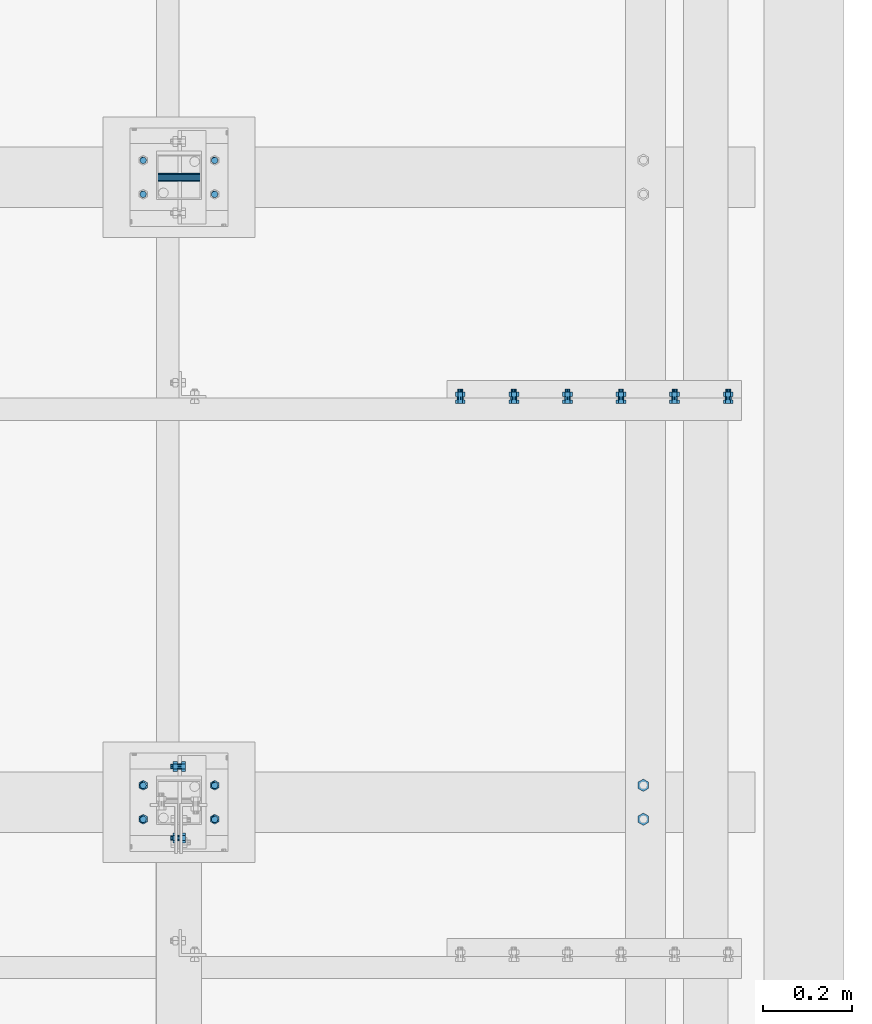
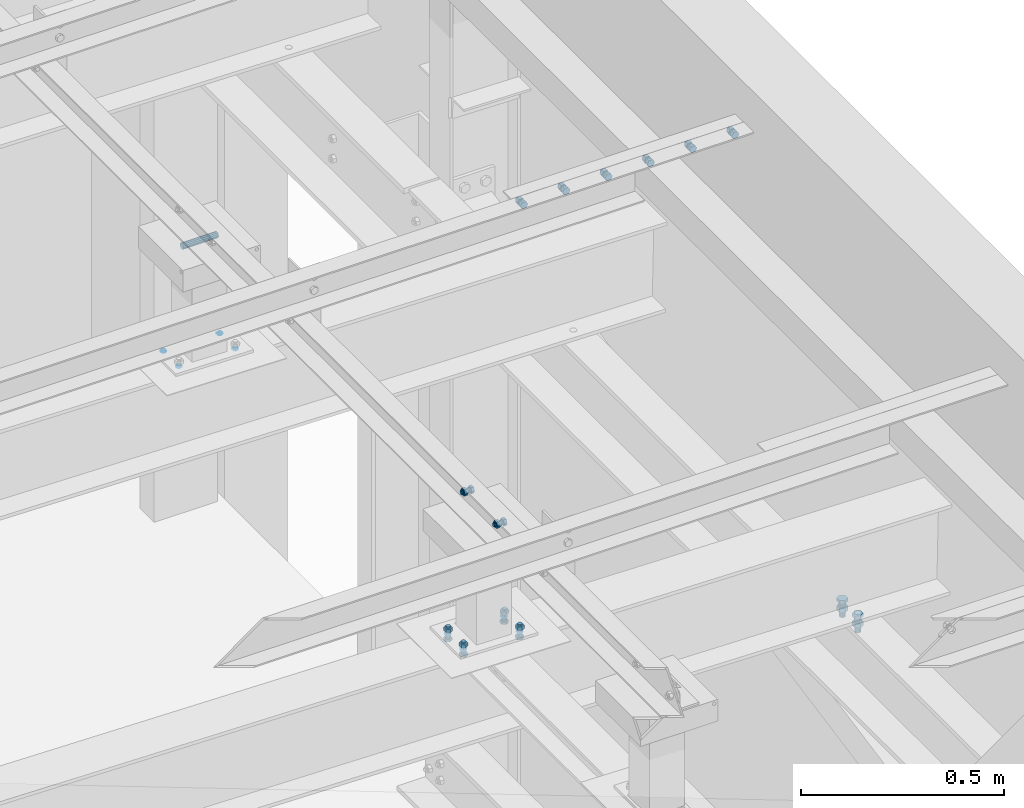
# One storey, part 400 of 3134: 7 mechanical fasteners, 7 elements without a shape of their own.
"""IFC2X3 building model written with IfcOpenShell, lengths in millimetres."""

from ifc_helpers import new_model, si_unit, frame, origin_with_axes, place, context, subcontext, project, spatial, faceted_brep, source, transform, mapped, material, type_object, element, aggregate, save


model = new_model("IFC2X3")

# Units and contexts
model_context = context("Model", 3, precision=1e-05, world=origin_with_axes())
body_context = subcontext(model_context, "Body", "Model", "MODEL_VIEW")
ifc_project = project(units=[si_unit("LENGTHUNIT", "METRE", prefix="MILLI"), si_unit("AREAUNIT", "SQUARE_METRE"), si_unit("VOLUMEUNIT", "CUBIC_METRE"), si_unit("MASSUNIT", "GRAM", prefix="KILO"), si_unit("TIMEUNIT", "SECOND"), si_unit("PLANEANGLEUNIT", "RADIAN"), si_unit("SOLIDANGLEUNIT", "STERADIAN"), si_unit("THERMODYNAMICTEMPERATUREUNIT", "DEGREE_CELSIUS"), si_unit("LUMINOUSINTENSITYUNIT", "LUMEN")], contexts=[model_context])

# Site, building, storey
site_placement = place(None, origin_with_axes())
site = spatial("IfcSite", under=ifc_project, at=site_placement, CompositionType="ELEMENT")
building_placement = place(site_placement, origin_with_axes())
building = spatial("IfcBuilding", under=site, at=building_placement, Name="Undefined", CompositionType="ELEMENT")
storey_placement = place(building_placement, origin_with_axes())
storey = spatial("IfcBuildingStorey", under=building, at=storey_placement, Name="Undefined", CompositionType="ELEMENT", Elevation=0.0)

# Assembly, mechanical fastener
assembly_1_placement = place(storey_placement, origin_with_axes())
assembly_1 = element("IfcElementAssembly", 1, at=assembly_1_placement, inside=storey, AssemblyPlace="NOTDEFINED", PredefinedType="RIGID_FRAME")
ifc_material = material(Name="8.8")
mechanical_fastener_type = type_object("IfcMechanicalFastenerType", Name="Bolt assembly")
shared_shape_1 = source(origin_with_axes(), body_context, "Body", "Brep", [
    faceted_brep([(10.9696551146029, -14.0, 0.0), (5.48482755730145, -14.0, 9.5), (-5.48482755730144, -14.0, 9.5), (-10.9696551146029, -14.0, 1.34339530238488e-15), (-5.48482755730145, -14.0, -9.5), (5.48482755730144, -14.0, -9.50000000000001), (5.48482755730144, -6.0, -9.50000000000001), (-5.48482755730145, -6.0, -9.5), (-10.9696551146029, -6.0, 1.34339530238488e-15), (-5.48482755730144, -6.0, 9.5), (5.48482755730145, -6.0, 9.5), (10.9696551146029, -6.0, 0.0), (6.0, -6.0, 0.0), (5.19615242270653, -6.0, 3.00000000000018), (2.99999999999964, -6.0, 5.19615242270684), (-6.21801588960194e-13, -6.0, 6.0), (-3.00000000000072, -6.0, 5.19615242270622), (-5.19615242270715, -6.0, 2.9999999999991), (-6.0, -6.0, -1.24360317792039e-12), (-5.19615242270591, -6.0, -3.00000000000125), (-2.99999999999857, -6.0, -5.19615242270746), (1.85874342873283e-12, -6.0, -6.0), (3.00000000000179, -6.0, -5.1961524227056), (5.19615242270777, -6.0, -2.99999999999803), (5.19615242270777, 19.0, -2.99999999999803), (3.00000000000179, 19.0, -5.1961524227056), (1.85874342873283e-12, 19.0, -6.0), (-2.99999999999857, 19.0, -5.19615242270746), (-5.19615242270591, 19.0, -3.00000000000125), (-6.0, 19.0, -1.24360317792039e-12), (-5.19615242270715, 19.0, 2.9999999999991), (-3.00000000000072, 19.0, 5.19615242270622), (-6.21801588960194e-13, 19.0, 6.0), (2.99999999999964, 19.0, 5.19615242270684), (5.19615242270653, 19.0, 3.00000000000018), (6.0, 19.0, 0.0), (10.9696551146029, 4.00000000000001, 0.0), (5.48482755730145, 4.00000000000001, 9.5), (-5.48482755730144, 4.00000000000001, 9.5), (-10.9696551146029, 4.00000000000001, 1.34339530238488e-15), (-5.48482755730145, 4.00000000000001, -9.5), (5.48482755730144, 4.00000000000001, -9.50000000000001), (5.48482755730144, 14.0, -9.50000000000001), (-5.48482755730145, 14.0, -9.5), (-10.9696551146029, 14.0, 1.34339530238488e-15), (-5.48482755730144, 14.0, 9.5), (5.48482755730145, 14.0, 9.5), (10.9696551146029, 14.0, 0.0)], [[[0, 1, 2, 3, 4, 5]], [[6, 7, 8, 9, 10, 11]], [[0, 11, 10, 1]], [[1, 10, 9, 2]], [[2, 9, 8, 3]], [[3, 8, 7, 4]], [[4, 7, 6, 5]], [[5, 6, 11, 0]], [[12, 13, 14, 15, 16, 17, 18, 19, 20, 21, 22, 23]], [[24, 25, 26, 27, 28, 29, 30, 31, 32, 33, 34, 35]], [[12, 35, 34, 13]], [[13, 34, 33, 14]], [[14, 33, 32, 15]], [[15, 32, 31, 16]], [[16, 31, 30, 17]], [[17, 30, 29, 18]], [[18, 29, 28, 19]], [[19, 28, 27, 20]], [[20, 27, 26, 21]], [[21, 26, 25, 22]], [[22, 25, 24, 23]], [[23, 24, 35, 12]], [[36, 37, 38, 39, 40, 41]], [[42, 43, 44, 45, 46, 47]], [[36, 47, 46, 37]], [[37, 46, 45, 38]], [[38, 45, 44, 39]], [[39, 44, 43, 40]], [[40, 43, 42, 41]], [[41, 42, 47, 36]]]),
    faceted_brep([(7.0, -0.1, 0.0), (6.06217782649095, -0.1, 3.50000000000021), (3.49999999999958, -0.1, 6.06217782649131), (-7.25435187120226e-13, -0.1, 7.0), (-3.50000000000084, -0.1, 6.06217782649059), (-6.06217782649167, -0.1, 3.49999999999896), (-7.0, -0.1, -1.45087037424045e-12), (-6.06217782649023, -0.1, -3.50000000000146), (-3.49999999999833, -0.1, -6.06217782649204), (2.1685340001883e-12, -0.1, -7.0), (3.50000000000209, -0.1, -6.06217782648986), (6.0621778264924, -0.1, -3.4999999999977), (6.0621778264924, 4.00000000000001, -3.4999999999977), (3.50000000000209, 4.00000000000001, -6.06217782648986), (2.1685340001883e-12, 4.00000000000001, -7.0), (-3.49999999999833, 4.00000000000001, -6.06217782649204), (-6.06217782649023, 4.00000000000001, -3.50000000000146), (-7.0, 4.00000000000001, -1.45087037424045e-12), (-6.06217782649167, 4.00000000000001, 3.49999999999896), (-3.50000000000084, 4.00000000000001, 6.06217782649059), (-7.25435187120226e-13, 4.00000000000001, 7.0), (3.49999999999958, 4.00000000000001, 6.06217782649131), (6.06217782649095, 4.00000000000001, 3.50000000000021), (7.0, 4.00000000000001, 0.0), (7.0, -5.9, 0.0), (6.06217782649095, -5.9, 3.50000000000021), (3.49999999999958, -5.9, 6.06217782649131), (-7.25435187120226e-13, -5.9, 7.0), (-3.50000000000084, -5.9, 6.06217782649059), (-6.06217782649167, -5.9, 3.49999999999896), (-7.0, -5.9, -1.45087037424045e-12), (-6.06217782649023, -5.9, -3.50000000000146), (-3.49999999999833, -5.9, -6.06217782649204), (2.1685340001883e-12, -5.9, -7.0), (3.50000000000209, -5.9, -6.06217782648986), (6.0621778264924, -5.9, -3.4999999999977), (6.0621778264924, 0.0999999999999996, -3.4999999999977), (3.50000000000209, 0.0999999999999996, -6.06217782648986), (2.1685340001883e-12, 0.0999999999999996, -7.0), (-3.49999999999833, 0.0999999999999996, -6.06217782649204), (-6.06217782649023, 0.0999999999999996, -3.50000000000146), (-7.0, 0.0999999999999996, -1.45087037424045e-12), (-6.06217782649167, 0.0999999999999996, 3.49999999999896), (-3.50000000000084, 0.0999999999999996, 6.06217782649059), (-7.25435187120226e-13, 0.0999999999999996, 7.0), (3.49999999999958, 0.0999999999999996, 6.06217782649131), (6.06217782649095, 0.0999999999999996, 3.50000000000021), (7.0, 0.0999999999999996, 0.0)], [[[0, 1, 2, 3, 4, 5, 6, 7, 8, 9, 10, 11]], [[12, 13, 14, 15, 16, 17, 18, 19, 20, 21, 22, 23]], [[0, 23, 22, 1]], [[1, 22, 21, 2]], [[2, 21, 20, 3]], [[3, 20, 19, 4]], [[4, 19, 18, 5]], [[5, 18, 17, 6]], [[6, 17, 16, 7]], [[7, 16, 15, 8]], [[8, 15, 14, 9]], [[9, 14, 13, 10]], [[10, 13, 12, 11]], [[11, 12, 23, 0]], [[24, 25, 26, 27, 28, 29, 30, 31, 32, 33, 34, 35]], [[36, 37, 38, 39, 40, 41, 42, 43, 44, 45, 46, 47]], [[24, 47, 46, 25]], [[25, 46, 45, 26]], [[26, 45, 44, 27]], [[27, 44, 43, 28]], [[28, 43, 42, 29]], [[29, 42, 41, 30]], [[30, 41, 40, 31]], [[31, 40, 39, 32]], [[32, 39, 38, 33]], [[33, 38, 37, 34]], [[34, 37, 36, 35]], [[35, 36, 47, 24]]]),
])
mechanical_fastener_1_placement = place(assembly_1_placement, frame((78045.0, 27665.0, 5785.0), z_axis=(0.0, 0.0, 1.0), x_axis=(0.0, 1.0, 0.0)))
mechanical_fastener_1 = element("IfcMechanicalFastener", 2, at=mechanical_fastener_1_placement, type_object=mechanical_fastener_type, material=ifc_material, Name="Bolt assembly", NominalDiameter=12.0, NominalLength=25.0, context=body_context, shape_type="MappedRepresentation", body=[
    mapped(shared_shape_1, transform((0.0, 0.0, 0.0))),
    mapped(shared_shape_1, transform((160.0, 0.0, 0.0))),
])
aggregate(assembly_1, [mechanical_fastener_1])

assembly_2_placement = place(storey_placement, origin_with_axes())
assembly_2 = element("IfcElementAssembly", 3, at=assembly_2_placement, inside=storey, AssemblyPlace="NOTDEFINED", PredefinedType="RIGID_FRAME")
shared_shape_2 = source(origin_with_axes(), body_context, "Body", "Brep", [
    faceted_brep([(7.0, 13.0000253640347, 0.0), (6.06217782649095, 13.0000253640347, 3.50000000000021), (3.49999999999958, 13.0000253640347, 6.06217782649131), (-7.25435187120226e-13, 13.0000253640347, 7.0), (-3.50000000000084, 13.0000253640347, 6.06217782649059), (-6.06217782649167, 13.0000253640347, 3.49999999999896), (-7.0, 13.0000253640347, -1.45087037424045e-12), (-6.06217782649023, 13.0000253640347, -3.50000000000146), (-3.49999999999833, 13.0000253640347, -6.06217782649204), (2.1685340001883e-12, 13.0000253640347, -7.0), (3.50000000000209, 13.0000253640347, -6.06217782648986), (6.0621778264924, 13.0000253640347, -3.4999999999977), (6.0621778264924, 15.0999999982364, -3.4999999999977), (3.50000000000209, 15.0999999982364, -6.06217782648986), (2.1685340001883e-12, 15.0999999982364, -7.0), (-3.49999999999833, 15.0999999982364, -6.06217782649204), (-6.06217782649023, 15.0999999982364, -3.50000000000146), (-7.0, 15.0999999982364, -1.45087037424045e-12), (-6.06217782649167, 15.0999999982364, 3.49999999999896), (-3.50000000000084, 15.0999999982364, 6.06217782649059), (-7.25435187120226e-13, 15.0999999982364, 7.0), (3.49999999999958, 15.0999999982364, 6.06217782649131), (6.06217782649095, 15.0999999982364, 3.50000000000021), (7.0, 15.0999999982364, 0.0)], [[[0, 1, 2, 3, 4, 5, 6, 7, 8, 9, 10, 11]], [[12, 13, 14, 15, 16, 17, 18, 19, 20, 21, 22, 23]], [[0, 23, 22, 1]], [[1, 22, 21, 2]], [[2, 21, 20, 3]], [[3, 20, 19, 4]], [[4, 19, 18, 5]], [[5, 18, 17, 6]], [[6, 17, 16, 7]], [[7, 16, 15, 8]], [[8, 15, 14, 9]], [[9, 14, 13, 10]], [[10, 13, 12, 11]], [[11, 12, 23, 0]]]),
])
mechanical_fastener_2_placement = place(assembly_2_placement, frame((78044.5380906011, 27783.0, 5393.24064104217), z_axis=(-0.999799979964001, 0.0, 0.0200000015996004), x_axis=(0.0, -1.0, 0.0)))
mechanical_fastener_2 = element("IfcMechanicalFastener", 4, at=mechanical_fastener_2_placement, type_object=mechanical_fastener_type, material=ifc_material, Name="Bolt assembly", NominalDiameter=12.0, NominalLength=2.0, context=body_context, shape_type="MappedRepresentation", body=[
    mapped(shared_shape_2, transform((0.0, -5.32963895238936e-10, -79.9999999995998))),
    mapped(shared_shape_2, transform((76.0, -5.32963895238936e-10, -79.9999999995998))),
    mapped(shared_shape_2, transform((0.0, 5.3114490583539e-10, 79.9999999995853))),
    mapped(shared_shape_2, transform((76.0, 5.3114490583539e-10, 79.9999999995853))),
])
aggregate(assembly_2, [mechanical_fastener_2])

assembly_3_placement = place(storey_placement, origin_with_axes())
assembly_3 = element("IfcElementAssembly", 5, at=assembly_3_placement, inside=storey, AssemblyPlace="NOTDEFINED", PredefinedType="RIGID_FRAME")
mechanical_fastener_3_placement = place(assembly_3_placement, frame((78044.5380906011, 29183.0, 5393.24064104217), z_axis=(-0.999799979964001, 0.0, 0.0200000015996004), x_axis=(0.0, -1.0, 0.0)))
mechanical_fastener_3 = element("IfcMechanicalFastener", 6, at=mechanical_fastener_3_placement, type_object=mechanical_fastener_type, material=ifc_material, Name="Bolt assembly", NominalDiameter=12.0, NominalLength=2.0, context=body_context, shape_type="MappedRepresentation", body=[
    mapped(shared_shape_2, transform((0.0, -5.32963895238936e-10, -79.9999999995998))),
    mapped(shared_shape_2, transform((76.0, -5.32963895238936e-10, -79.9999999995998))),
    mapped(shared_shape_2, transform((0.0, 5.3114490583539e-10, 79.9999999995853))),
    mapped(shared_shape_2, transform((76.0, 5.3114490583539e-10, 79.9999999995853))),
])
aggregate(assembly_3, [mechanical_fastener_3])

assembly_4_placement = place(storey_placement, origin_with_axes())
assembly_4 = element("IfcElementAssembly", 7, at=assembly_4_placement, inside=storey, AssemblyPlace="NOTDEFINED", PredefinedType="RIGID_FRAME")
shared_shape_3 = source(origin_with_axes(), body_context, "Body", "Brep", [
    faceted_brep([(9.0, -50.0, 0.0), (7.79422863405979, -50.0, 4.50000000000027), (4.49999999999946, -50.0, 7.79422863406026), (-9.3270238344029e-13, -50.0, 9.0), (-4.50000000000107, -50.0, 7.79422863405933), (-7.79422863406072, -50.0, 4.49999999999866), (-9.0, -50.0, -1.86540476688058e-12), (-7.79422863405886, -50.0, -4.50000000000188), (-4.49999999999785, -50.0, -7.79422863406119), (2.78811514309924e-12, -50.0, -9.0), (4.50000000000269, -50.0, -7.7942286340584), (7.79422863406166, -50.0, -4.49999999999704), (7.79422863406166, 50.1, -4.49999999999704), (4.50000000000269, 50.1, -7.7942286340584), (2.78811514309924e-12, 50.1, -9.0), (-4.49999999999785, 50.1, -7.79422863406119), (-7.79422863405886, 50.1, -4.50000000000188), (-9.0, 50.1, -1.86540476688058e-12), (-7.79422863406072, 50.1, 4.49999999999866), (-4.50000000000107, 50.1, 7.79422863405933), (-9.3270238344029e-13, 50.1, 9.0), (4.49999999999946, 50.1, 7.79422863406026), (7.79422863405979, 50.1, 4.50000000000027), (9.0, 50.1, 0.0)], [[[0, 1, 2, 3, 4, 5, 6, 7, 8, 9, 10, 11]], [[12, 13, 14, 15, 16, 17, 18, 19, 20, 21, 22, 23]], [[0, 23, 22, 1]], [[1, 22, 21, 2]], [[2, 21, 20, 3]], [[3, 20, 19, 4]], [[4, 19, 18, 5]], [[5, 18, 17, 6]], [[6, 17, 16, 7]], [[7, 16, 15, 8]], [[8, 15, 14, 9]], [[9, 14, 13, 10]], [[10, 13, 12, 11]], [[11, 12, 23, 0]]]),
])
mechanical_fastener_4_placement = place(assembly_4_placement, frame((78045.0, 29145.0, 5736.0), z_axis=(0.0, 1.0, 0.0), x_axis=(0.0, 0.0, 1.0)))
mechanical_fastener_4 = element("IfcMechanicalFastener", 8, at=mechanical_fastener_4_placement, type_object=mechanical_fastener_type, material=ifc_material, Name="Bolt assembly", NominalDiameter=16.0, NominalLength=100.0, context=body_context, shape_type="MappedRepresentation", body=[
    mapped(shared_shape_3, transform((0.0, 0.0, 0.0))),
])
aggregate(assembly_4, [mechanical_fastener_4])

assembly_5_placement = place(storey_placement, origin_with_axes())
assembly_5 = element("IfcElementAssembly", 9, at=assembly_5_placement, inside=storey, Name="UPN260", AssemblyPlace="NOTDEFINED", PredefinedType="RIGID_FRAME")
shared_shape_4 = source(origin_with_axes(), body_context, "Body", "Brep", [
    faceted_brep([(13.856406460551, -10.0, 0.0), (6.92820323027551, -10.0, 12.0), (-6.92820323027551, -10.0, 12.0), (-13.856406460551, -10.0, 1.69692038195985e-15), (-6.92820323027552, -10.0, -12.0), (6.9282032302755, -10.0, -12.0), (6.9282032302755, 0.0, -12.0), (-6.92820323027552, 0.0, -12.0), (-13.856406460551, 0.0, 1.69692038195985e-15), (-6.92820323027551, 0.0, 12.0), (6.92820323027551, 0.0, 12.0), (13.856406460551, 0.0, 0.0), (8.0, 0.0, 0.0), (6.92820323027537, 0.0, 4.00000000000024), (3.99999999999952, 0.0, 6.92820323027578), (-8.29068785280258e-13, 0.0, 8.0), (-4.00000000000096, 0.0, 6.92820323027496), (-6.9282032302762, 0.0, 3.99999999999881), (-8.0, 0.0, -1.65813757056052e-12), (-6.92820323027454, 0.0, -4.00000000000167), (-3.99999999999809, 0.0, -6.92820323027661), (2.47832457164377e-12, 0.0, -8.0), (4.00000000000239, 0.0, -6.92820323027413), (6.92820323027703, 0.0, -3.99999999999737), (6.92820323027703, 45.0, -3.99999999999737), (4.00000000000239, 45.0, -6.92820323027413), (2.47832457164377e-12, 45.0, -8.0), (-3.99999999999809, 45.0, -6.92820323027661), (-6.92820323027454, 45.0, -4.00000000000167), (-8.0, 45.0, -1.65813757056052e-12), (-6.9282032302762, 45.0, 3.99999999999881), (-4.00000000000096, 45.0, 6.92820323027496), (-8.29068785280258e-13, 45.0, 8.0), (3.99999999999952, 45.0, 6.92820323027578), (6.92820323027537, 45.0, 4.00000000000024), (8.0, 45.0, 0.0), (13.856406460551, 13.9999999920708, 0.0), (6.92820323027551, 13.9999999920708, 12.0), (-6.92820323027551, 13.9999999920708, 12.0), (-13.856406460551, 13.9999999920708, 1.69692038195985e-15), (-6.92820323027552, 13.9999999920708, -12.0), (6.9282032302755, 13.9999999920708, -12.0), (6.9282032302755, 27.0, -12.0), (-6.92820323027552, 27.0, -12.0), (-13.856406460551, 27.0, 1.69692038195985e-15), (-6.92820323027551, 27.0, 12.0), (6.92820323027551, 27.0, 12.0), (13.856406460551, 27.0, 0.0)], [[[0, 1, 2, 3, 4, 5]], [[6, 7, 8, 9, 10, 11]], [[0, 11, 10, 1]], [[1, 10, 9, 2]], [[2, 9, 8, 3]], [[3, 8, 7, 4]], [[4, 7, 6, 5]], [[5, 6, 11, 0]], [[12, 13, 14, 15, 16, 17, 18, 19, 20, 21, 22, 23]], [[24, 25, 26, 27, 28, 29, 30, 31, 32, 33, 34, 35]], [[12, 35, 34, 13]], [[13, 34, 33, 14]], [[14, 33, 32, 15]], [[15, 32, 31, 16]], [[16, 31, 30, 17]], [[17, 30, 29, 18]], [[18, 29, 28, 19]], [[19, 28, 27, 20]], [[20, 27, 26, 21]], [[21, 26, 25, 22]], [[22, 25, 24, 23]], [[23, 24, 35, 12]], [[36, 37, 38, 39, 40, 41]], [[42, 43, 44, 45, 46, 47]], [[36, 47, 46, 37]], [[37, 46, 45, 38]], [[38, 45, 44, 39]], [[39, 44, 43, 40]], [[40, 43, 42, 41]], [[41, 42, 47, 36]]]),
    faceted_brep([(9.0, -3.46568413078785e-07, 0.0), (7.79422863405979, -3.46568413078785e-07, 4.50000000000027), (4.49999999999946, -3.46568413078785e-07, 7.79422863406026), (-9.3270238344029e-13, -3.46568413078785e-07, 9.0), (-4.50000000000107, -3.46568413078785e-07, 7.79422863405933), (-7.79422863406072, -3.46568413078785e-07, 4.49999999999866), (-9.0, -3.46568413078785e-07, -1.86540476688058e-12), (-7.79422863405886, -3.46568413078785e-07, -4.50000000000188), (-4.49999999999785, -3.46568413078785e-07, -7.79422863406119), (2.78811514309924e-12, -3.46568413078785e-07, -9.0), (4.50000000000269, -3.46568413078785e-07, -7.7942286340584), (7.79422863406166, -3.46568413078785e-07, -4.49999999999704), (7.79422863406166, 14.1000000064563, -4.49999999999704), (4.50000000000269, 14.1000000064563, -7.7942286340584), (2.78811514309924e-12, 14.1000000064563, -9.0), (-4.49999999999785, 14.1000000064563, -7.79422863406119), (-7.79422863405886, 14.1000000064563, -4.50000000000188), (-9.0, 14.1000000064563, -1.86540476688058e-12), (-7.79422863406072, 14.1000000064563, 4.49999999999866), (-4.50000000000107, 14.1000000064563, 7.79422863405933), (-9.3270238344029e-13, 14.1000000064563, 9.0), (4.49999999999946, 14.1000000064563, 7.79422863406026), (7.79422863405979, 14.1000000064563, 4.50000000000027), (9.0, 14.1000000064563, 0.0)], [[[0, 1, 2, 3, 4, 5, 6, 7, 8, 9, 10, 11]], [[12, 13, 14, 15, 16, 17, 18, 19, 20, 21, 22, 23]], [[0, 23, 22, 1]], [[1, 22, 21, 2]], [[2, 21, 20, 3]], [[3, 20, 19, 4]], [[4, 19, 18, 5]], [[5, 18, 17, 6]], [[6, 17, 16, 7]], [[7, 16, 15, 8]], [[8, 15, 14, 9]], [[9, 14, 13, 10]], [[10, 13, 12, 11]], [[11, 12, 23, 0]]]),
])
mechanical_fastener_5_placement = place(assembly_5_placement, frame((79085.0, 27707.0, 5114.384809), z_axis=(-1.0, 0.0, 0.0), x_axis=(0.0, 1.0, 0.0)))
mechanical_fastener_5 = element("IfcMechanicalFastener", 10, at=mechanical_fastener_5_placement, type_object=mechanical_fastener_type, material=ifc_material, Name="Bolt assembly", NominalDiameter=16.0, NominalLength=45.0, context=body_context, shape_type="MappedRepresentation", body=[
    mapped(shared_shape_4, transform((0.0, 0.0, 0.0))),
    mapped(shared_shape_4, transform((76.0, 0.0, 0.0))),
])
aggregate(assembly_5, [mechanical_fastener_5])

assembly_6_placement = place(storey_placement, origin_with_axes())
assembly_6 = element("IfcElementAssembly", 11, at=assembly_6_placement, inside=storey, AssemblyPlace="NOTDEFINED", PredefinedType="RIGID_FRAME")
shared_shape_5 = source(origin_with_axes(), body_context, "Body", "Brep", [
    faceted_brep([(10.9696551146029, -12.0, 0.0), (5.48482755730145, -12.0, 9.5), (-5.48482755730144, -12.0, 9.5), (-10.9696551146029, -12.0, 1.34339530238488e-15), (-5.48482755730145, -12.0, -9.5), (5.48482755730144, -12.0, -9.50000000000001), (5.48482755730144, -4.0, -9.50000000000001), (-5.48482755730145, -4.0, -9.5), (-10.9696551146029, -4.0, 1.34339530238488e-15), (-5.48482755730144, -4.0, 9.5), (5.48482755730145, -4.0, 9.5), (10.9696551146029, -4.0, 0.0), (6.0, -4.0, 0.0), (5.19615242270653, -4.0, 3.00000000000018), (2.99999999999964, -4.0, 5.19615242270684), (-6.21801588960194e-13, -4.0, 6.0), (-3.00000000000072, -4.0, 5.19615242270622), (-5.19615242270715, -4.0, 2.9999999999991), (-6.0, -4.0, -1.24360317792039e-12), (-5.19615242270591, -4.0, -3.00000000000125), (-2.99999999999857, -4.0, -5.19615242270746), (1.85874342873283e-12, -4.0, -6.0), (3.00000000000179, -4.0, -5.1961524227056), (5.19615242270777, -4.0, -2.99999999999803), (5.19615242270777, 21.0, -2.99999999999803), (3.00000000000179, 21.0, -5.1961524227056), (1.85874342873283e-12, 21.0, -6.0), (-2.99999999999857, 21.0, -5.19615242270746), (-5.19615242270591, 21.0, -3.00000000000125), (-6.0, 21.0, -1.24360317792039e-12), (-5.19615242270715, 21.0, 2.9999999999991), (-3.00000000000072, 21.0, 5.19615242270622), (-6.21801588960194e-13, 21.0, 6.0), (2.99999999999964, 21.0, 5.19615242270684), (5.19615242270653, 21.0, 3.00000000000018), (6.0, 21.0, 0.0), (10.9696551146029, 4.00000000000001, 0.0), (5.48482755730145, 4.00000000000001, 9.5), (-5.48482755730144, 4.00000000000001, 9.5), (-10.9696551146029, 4.00000000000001, 1.34339530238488e-15), (-5.48482755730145, 4.00000000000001, -9.5), (5.48482755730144, 4.00000000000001, -9.50000000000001), (5.48482755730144, 14.0, -9.50000000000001), (-5.48482755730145, 14.0, -9.5), (-10.9696551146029, 14.0, 1.34339530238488e-15), (-5.48482755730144, 14.0, 9.5), (5.48482755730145, 14.0, 9.5), (10.9696551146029, 14.0, 0.0)], [[[0, 1, 2, 3, 4, 5]], [[6, 7, 8, 9, 10, 11]], [[0, 11, 10, 1]], [[1, 10, 9, 2]], [[2, 9, 8, 3]], [[3, 8, 7, 4]], [[4, 7, 6, 5]], [[5, 6, 11, 0]], [[12, 13, 14, 15, 16, 17, 18, 19, 20, 21, 22, 23]], [[24, 25, 26, 27, 28, 29, 30, 31, 32, 33, 34, 35]], [[12, 35, 34, 13]], [[13, 34, 33, 14]], [[14, 33, 32, 15]], [[15, 32, 31, 16]], [[16, 31, 30, 17]], [[17, 30, 29, 18]], [[18, 29, 28, 19]], [[19, 28, 27, 20]], [[20, 27, 26, 21]], [[21, 26, 25, 22]], [[22, 25, 24, 23]], [[23, 24, 35, 12]], [[36, 37, 38, 39, 40, 41]], [[42, 43, 44, 45, 46, 47]], [[36, 47, 46, 37]], [[37, 46, 45, 38]], [[38, 45, 44, 39]], [[39, 44, 43, 40]], [[40, 43, 42, 41]], [[41, 42, 47, 36]]]),
    faceted_brep([(7.0, -3.9, 0.0), (6.06217782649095, -3.9, 3.50000000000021), (3.49999999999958, -3.9, 6.06217782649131), (-7.25435187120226e-13, -3.9, 7.0), (-3.50000000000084, -3.9, 6.06217782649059), (-6.06217782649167, -3.9, 3.49999999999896), (-7.0, -3.9, -1.45087037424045e-12), (-6.06217782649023, -3.9, -3.50000000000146), (-3.49999999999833, -3.9, -6.06217782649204), (2.1685340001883e-12, -3.9, -7.0), (3.50000000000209, -3.9, -6.06217782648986), (6.0621778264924, -3.9, -3.4999999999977), (6.0621778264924, 0.0999999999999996, -3.4999999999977), (3.50000000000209, 0.0999999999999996, -6.06217782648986), (2.1685340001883e-12, 0.0999999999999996, -7.0), (-3.49999999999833, 0.0999999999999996, -6.06217782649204), (-6.06217782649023, 0.0999999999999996, -3.50000000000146), (-7.0, 0.0999999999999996, -1.45087037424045e-12), (-6.06217782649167, 0.0999999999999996, 3.49999999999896), (-3.50000000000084, 0.0999999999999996, 6.06217782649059), (-7.25435187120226e-13, 0.0999999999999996, 7.0), (3.49999999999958, 0.0999999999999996, 6.06217782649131), (6.06217782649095, 0.0999999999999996, 3.50000000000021), (7.0, 0.0999999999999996, 0.0), (7.0, -0.1, 0.0), (6.06217782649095, -0.1, 3.50000000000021), (3.49999999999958, -0.1, 6.06217782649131), (-7.25435187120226e-13, -0.1, 7.0), (-3.50000000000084, -0.1, 6.06217782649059), (-6.06217782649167, -0.1, 3.49999999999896), (-7.0, -0.1, -1.45087037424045e-12), (-6.06217782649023, -0.1, -3.50000000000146), (-3.49999999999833, -0.1, -6.06217782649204), (2.1685340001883e-12, -0.1, -7.0), (3.50000000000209, -0.1, -6.06217782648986), (6.0621778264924, -0.1, -3.4999999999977), (6.0621778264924, 4.00000000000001, -3.4999999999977), (3.50000000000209, 4.00000000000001, -6.06217782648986), (2.1685340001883e-12, 4.00000000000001, -7.0), (-3.49999999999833, 4.00000000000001, -6.06217782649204), (-6.06217782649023, 4.00000000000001, -3.50000000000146), (-7.0, 4.00000000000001, -1.45087037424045e-12), (-6.06217782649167, 4.00000000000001, 3.49999999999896), (-3.50000000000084, 4.00000000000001, 6.06217782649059), (-7.25435187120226e-13, 4.00000000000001, 7.0), (3.49999999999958, 4.00000000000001, 6.06217782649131), (6.06217782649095, 4.00000000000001, 3.50000000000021), (7.0, 4.00000000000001, 0.0)], [[[0, 1, 2, 3, 4, 5, 6, 7, 8, 9, 10, 11]], [[12, 13, 14, 15, 16, 17, 18, 19, 20, 21, 22, 23]], [[0, 23, 22, 1]], [[1, 22, 21, 2]], [[2, 21, 20, 3]], [[3, 20, 19, 4]], [[4, 19, 18, 5]], [[5, 18, 17, 6]], [[6, 17, 16, 7]], [[7, 16, 15, 8]], [[8, 15, 14, 9]], [[9, 14, 13, 10]], [[10, 13, 12, 11]], [[11, 12, 23, 0]], [[24, 25, 26, 27, 28, 29, 30, 31, 32, 33, 34, 35]], [[36, 37, 38, 39, 40, 41, 42, 43, 44, 45, 46, 47]], [[24, 47, 46, 25]], [[25, 46, 45, 26]], [[26, 45, 44, 27]], [[27, 44, 43, 28]], [[28, 43, 42, 29]], [[29, 42, 41, 30]], [[30, 41, 40, 31]], [[31, 40, 39, 32]], [[32, 39, 38, 33]], [[33, 38, 37, 34]], [[34, 37, 36, 35]], [[35, 36, 47, 24]]]),
])
mechanical_fastener_6_placement = place(assembly_6_placement, frame((78675.0, 28650.0, 5928.0), z_axis=(0.0, 0.0, 1.0), x_axis=(1.0, 0.0, 0.0)))
mechanical_fastener_6 = element("IfcMechanicalFastener", 12, at=mechanical_fastener_6_placement, type_object=mechanical_fastener_type, material=ifc_material, Name="Bolt assembly", NominalDiameter=12.0, NominalLength=25.0, context=body_context, shape_type="MappedRepresentation", body=[
    mapped(shared_shape_5, transform((0.0, 0.0, 0.0))),
    mapped(shared_shape_5, transform((120.0, 0.0, 0.0))),
    mapped(shared_shape_5, transform((240.0, 0.0, 0.0))),
    mapped(shared_shape_5, transform((360.0, 0.0, 0.0))),
    mapped(shared_shape_5, transform((480.0, 0.0, 0.0))),
    mapped(shared_shape_5, transform((600.0, 0.0, 0.0))),
])
aggregate(assembly_6, [mechanical_fastener_6])

assembly_7_placement = place(storey_placement, origin_with_axes())
assembly_7 = element("IfcElementAssembly", 13, at=assembly_7_placement, inside=storey, Name="IPE270", AssemblyPlace="NOTDEFINED", PredefinedType="RIGID_FRAME")
shared_shape_6 = source(origin_with_axes(), body_context, "Body", "Brep", [
    faceted_brep([(10.9696551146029, -5.19448874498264, 0.0), (5.48482755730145, -5.19448874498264, 9.5), (-5.48482755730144, -5.19448874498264, 9.5), (-10.9696551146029, -5.19448874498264, 1.34339530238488e-15), (-5.48482755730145, -5.19448874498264, -9.5), (5.48482755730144, -5.19448874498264, -9.50000000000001), (5.48482755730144, 2.80551125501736, -9.50000000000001), (-5.48482755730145, 2.80551125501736, -9.5), (-10.9696551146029, 2.80551125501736, 1.34339530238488e-15), (-5.48482755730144, 2.80551125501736, 9.5), (5.48482755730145, 2.80551125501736, 9.5), (10.9696551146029, 2.80551125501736, 0.0), (6.0, 2.80551125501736, 0.0), (5.19615242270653, 2.80551125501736, 3.00000000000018), (2.99999999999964, 2.80551125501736, 5.19615242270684), (-6.21801588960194e-13, 2.80551125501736, 6.0), (-3.00000000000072, 2.80551125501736, 5.19615242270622), (-5.19615242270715, 2.80551125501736, 2.9999999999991), (-6.0, 2.80551125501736, -1.24360317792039e-12), (-5.19615242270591, 2.80551125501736, -3.00000000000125), (-2.99999999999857, 2.80551125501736, -5.19615242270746), (1.85874342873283e-12, 2.80551125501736, -6.0), (3.00000000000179, 2.80551125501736, -5.1961524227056), (5.19615242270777, 2.80551125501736, -2.99999999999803), (5.19615242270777, 37.8055112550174, -2.99999999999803), (3.00000000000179, 37.8055112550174, -5.1961524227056), (1.85874342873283e-12, 37.8055112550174, -6.0), (-2.99999999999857, 37.8055112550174, -5.19615242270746), (-5.19615242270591, 37.8055112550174, -3.00000000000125), (-6.0, 37.8055112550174, -1.24360317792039e-12), (-5.19615242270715, 37.8055112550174, 2.9999999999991), (-3.00000000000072, 37.8055112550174, 5.19615242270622), (-6.21801588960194e-13, 37.8055112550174, 6.0), (2.99999999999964, 37.8055112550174, 5.19615242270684), (5.19615242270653, 37.8055112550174, 3.00000000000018), (6.0, 37.8055112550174, 0.0), (10.9696551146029, 23.0139082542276, 0.0), (5.48482755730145, 23.0139082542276, 9.5), (-5.48482755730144, 23.0139082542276, 9.5), (-10.9696551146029, 23.0139082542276, 1.34339530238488e-15), (-5.48482755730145, 23.0139082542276, -9.5), (5.48482755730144, 23.0139082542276, -9.50000000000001), (5.48482755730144, 33.0139082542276, -9.50000000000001), (-5.48482755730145, 33.0139082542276, -9.5), (-10.9696551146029, 33.0139082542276, 1.34339530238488e-15), (-5.48482755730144, 33.0139082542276, 9.5), (5.48482755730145, 33.0139082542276, 9.5), (10.9696551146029, 33.0139082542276, 0.0)], [[[0, 1, 2, 3, 4, 5]], [[6, 7, 8, 9, 10, 11]], [[0, 11, 10, 1]], [[1, 10, 9, 2]], [[2, 9, 8, 3]], [[3, 8, 7, 4]], [[4, 7, 6, 5]], [[5, 6, 11, 0]], [[12, 13, 14, 15, 16, 17, 18, 19, 20, 21, 22, 23]], [[24, 25, 26, 27, 28, 29, 30, 31, 32, 33, 34, 35]], [[12, 35, 34, 13]], [[13, 34, 33, 14]], [[14, 33, 32, 15]], [[15, 32, 31, 16]], [[16, 31, 30, 17]], [[17, 30, 29, 18]], [[18, 29, 28, 19]], [[19, 28, 27, 20]], [[20, 27, 26, 21]], [[21, 26, 25, 22]], [[22, 25, 24, 23]], [[23, 24, 35, 12]], [[36, 37, 38, 39, 40, 41]], [[42, 43, 44, 45, 46, 47]], [[36, 47, 46, 37]], [[37, 46, 45, 38]], [[38, 45, 44, 39]], [[39, 44, 43, 40]], [[40, 43, 42, 41]], [[41, 42, 47, 36]]]),
    faceted_brep([(7.0, 14.9139082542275, 0.0), (6.06217782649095, 14.9139082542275, 3.50000000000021), (3.49999999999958, 14.9139082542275, 6.06217782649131), (-7.25435187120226e-13, 14.9139082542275, 7.0), (-3.50000000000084, 14.9139082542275, 6.06217782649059), (-6.06217782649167, 14.9139082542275, 3.49999999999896), (-7.0, 14.9139082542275, -1.45087037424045e-12), (-6.06217782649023, 14.9139082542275, -3.50000000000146), (-3.49999999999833, 14.9139082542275, -6.06217782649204), (2.1685340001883e-12, 14.9139082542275, -7.0), (3.50000000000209, 14.9139082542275, -6.06217782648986), (6.0621778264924, 14.9139082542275, -3.4999999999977), (6.0621778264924, 23.0139082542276, -3.4999999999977), (3.50000000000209, 23.0139082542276, -6.06217782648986), (2.1685340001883e-12, 23.0139082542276, -7.0), (-3.49999999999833, 23.0139082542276, -6.06217782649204), (-6.06217782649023, 23.0139082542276, -3.50000000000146), (-7.0, 23.0139082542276, -1.45087037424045e-12), (-6.06217782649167, 23.0139082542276, 3.49999999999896), (-3.50000000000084, 23.0139082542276, 6.06217782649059), (-7.25435187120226e-13, 23.0139082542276, 7.0), (3.49999999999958, 23.0139082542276, 6.06217782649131), (6.06217782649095, 23.0139082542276, 3.50000000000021), (7.0, 23.0139082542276, 0.0), (7.0, 2.90551125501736, 0.0), (6.06217782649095, 2.90551125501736, 3.50000000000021), (3.49999999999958, 2.90551125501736, 6.06217782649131), (-7.25435187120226e-13, 2.90551125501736, 7.0), (-3.50000000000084, 2.90551125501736, 6.06217782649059), (-6.06217782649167, 2.90551125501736, 3.49999999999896), (-7.0, 2.90551125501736, -1.45087037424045e-12), (-6.06217782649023, 2.90551125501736, -3.50000000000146), (-3.49999999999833, 2.90551125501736, -6.06217782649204), (2.1685340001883e-12, 2.90551125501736, -7.0), (3.50000000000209, 2.90551125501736, -6.06217782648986), (6.0621778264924, 2.90551125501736, -3.4999999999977), (6.0621778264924, 13.1065657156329, -3.4999999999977), (3.50000000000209, 13.1065657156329, -6.06217782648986), (2.1685340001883e-12, 13.1065657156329, -7.0), (-3.49999999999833, 13.1065657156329, -6.06217782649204), (-6.06217782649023, 13.1065657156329, -3.50000000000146), (-7.0, 13.1065657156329, -1.45087037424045e-12), (-6.06217782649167, 13.1065657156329, 3.49999999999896), (-3.50000000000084, 13.1065657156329, 6.06217782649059), (-7.25435187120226e-13, 13.1065657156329, 7.0), (3.49999999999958, 13.1065657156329, 6.06217782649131), (6.06217782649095, 13.1065657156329, 3.50000000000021), (7.0, 13.1065657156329, 0.0)], [[[0, 1, 2, 3, 4, 5, 6, 7, 8, 9, 10, 11]], [[12, 13, 14, 15, 16, 17, 18, 19, 20, 21, 22, 23]], [[0, 23, 22, 1]], [[1, 22, 21, 2]], [[2, 21, 20, 3]], [[3, 20, 19, 4]], [[4, 19, 18, 5]], [[5, 18, 17, 6]], [[6, 17, 16, 7]], [[7, 16, 15, 8]], [[8, 15, 14, 9]], [[9, 14, 13, 10]], [[10, 13, 12, 11]], [[11, 12, 23, 0]], [[24, 25, 26, 27, 28, 29, 30, 31, 32, 33, 34, 35]], [[36, 37, 38, 39, 40, 41, 42, 43, 44, 45, 46, 47]], [[24, 47, 46, 25]], [[25, 46, 45, 26]], [[26, 45, 44, 27]], [[27, 44, 43, 28]], [[28, 43, 42, 29]], [[29, 42, 41, 30]], [[30, 41, 40, 31]], [[31, 40, 39, 32]], [[32, 39, 38, 33]], [[33, 38, 37, 34]], [[34, 37, 36, 35]], [[35, 36, 47, 24]]]),
])
mechanical_fastener_7_placement = place(assembly_7_placement, frame((78044.5380906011, 27783.0, 5393.24064104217), z_axis=(-0.999799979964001, 0.0, 0.0200000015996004), x_axis=(0.0, -1.0, 0.0)))
mechanical_fastener_7 = element("IfcMechanicalFastener", 14, at=mechanical_fastener_7_placement, type_object=mechanical_fastener_type, material=ifc_material, Name="Bolt assembly", NominalDiameter=12.0, NominalLength=35.0, context=body_context, shape_type="MappedRepresentation", body=[
    mapped(shared_shape_6, transform((0.0, -5.32963895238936e-10, -79.9999999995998))),
    mapped(shared_shape_6, transform((76.0, -5.32963895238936e-10, -79.9999999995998))),
    mapped(shared_shape_6, transform((0.0, 5.3114490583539e-10, 79.9999999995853))),
    mapped(shared_shape_6, transform((76.0, 5.3114490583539e-10, 79.9999999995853))),
])
aggregate(assembly_7, [mechanical_fastener_7])

save(model, "model.ifc")
